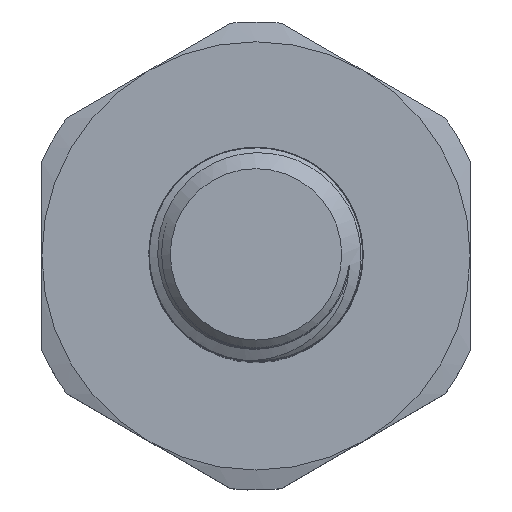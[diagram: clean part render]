
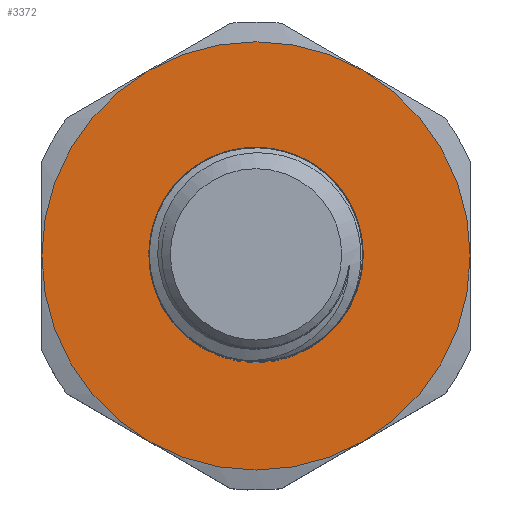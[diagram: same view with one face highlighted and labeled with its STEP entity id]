
A CAD part, top view. The second image highlights one B-rep face of the part: STEP entity #3372.
In plain terms, the highlighted planar face has unit normal (0, 0, 1).
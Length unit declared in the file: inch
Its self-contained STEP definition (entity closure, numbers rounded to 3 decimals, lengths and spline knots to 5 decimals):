
#135=FACE_BOUND('',#609,.T.);
#170=PLANE('',#3723);
#349=FACE_OUTER_BOUND('',#608,.T.);
#608=EDGE_LOOP('',(#2738,#2739,#2740,#2741,#2742,#2743,#2744));
#609=EDGE_LOOP('',(#2745));
#819=CIRCLE('',#3719,0.2495);
#821=CIRCLE('',#3724,0.5);
#822=CIRCLE('',#3725,0.5);
#823=CIRCLE('',#3726,0.5);
#824=CIRCLE('',#3727,0.5);
#825=CIRCLE('',#3728,0.5);
#826=CIRCLE('',#3729,0.5);
#1096=LINE('',#10860,#1208);
#1208=VECTOR('',#4480,0.3937);
#1481=VERTEX_POINT('',#10839);
#1483=VERTEX_POINT('',#10847);
#1484=VERTEX_POINT('',#10848);
#1485=VERTEX_POINT('',#10850);
#1486=VERTEX_POINT('',#10852);
#1487=VERTEX_POINT('',#10854);
#1488=VERTEX_POINT('',#10856);
#1489=VERTEX_POINT('',#10858);
#1916=EDGE_CURVE('',#1481,#1481,#819,.T.);
#1919=EDGE_CURVE('',#1483,#1484,#821,.T.);
#1920=EDGE_CURVE('',#1484,#1485,#822,.T.);
#1921=EDGE_CURVE('',#1485,#1486,#823,.T.);
#1922=EDGE_CURVE('',#1486,#1487,#824,.T.);
#1923=EDGE_CURVE('',#1487,#1488,#825,.T.);
#1924=EDGE_CURVE('',#1488,#1489,#826,.T.);
#1925=EDGE_CURVE('',#1483,#1489,#1096,.T.);
#2738=ORIENTED_EDGE('',*,*,#1919,.T.);
#2739=ORIENTED_EDGE('',*,*,#1920,.T.);
#2740=ORIENTED_EDGE('',*,*,#1921,.T.);
#2741=ORIENTED_EDGE('',*,*,#1922,.T.);
#2742=ORIENTED_EDGE('',*,*,#1923,.T.);
#2743=ORIENTED_EDGE('',*,*,#1924,.T.);
#2744=ORIENTED_EDGE('',*,*,#1925,.F.);
#2745=ORIENTED_EDGE('',*,*,#1916,.T.);
#3372=ADVANCED_FACE('',(#349,#135),#170,.T.);
#3719=AXIS2_PLACEMENT_3D('',#10840,#4457,#4458);
#3723=AXIS2_PLACEMENT_3D('',#10846,#4466,#4467);
#3724=AXIS2_PLACEMENT_3D('',#10849,#4468,#4469);
#3725=AXIS2_PLACEMENT_3D('',#10851,#4470,#4471);
#3726=AXIS2_PLACEMENT_3D('',#10853,#4472,#4473);
#3727=AXIS2_PLACEMENT_3D('',#10855,#4474,#4475);
#3728=AXIS2_PLACEMENT_3D('',#10857,#4476,#4477);
#3729=AXIS2_PLACEMENT_3D('',#10859,#4478,#4479);
#4457=DIRECTION('center_axis',(0.,0.,-1.));
#4458=DIRECTION('ref_axis',(-1.,0.,0.));
#4466=DIRECTION('center_axis',(0.,0.,1.));
#4467=DIRECTION('ref_axis',(1.,0.,0.));
#4468=DIRECTION('center_axis',(0.,0.,1.));
#4469=DIRECTION('ref_axis',(-1.,0.,0.));
#4470=DIRECTION('center_axis',(0.,0.,1.));
#4471=DIRECTION('ref_axis',(-1.,0.,0.));
#4472=DIRECTION('center_axis',(0.,0.,1.));
#4473=DIRECTION('ref_axis',(-1.,0.,0.));
#4474=DIRECTION('center_axis',(0.,0.,1.));
#4475=DIRECTION('ref_axis',(-1.,0.,0.));
#4476=DIRECTION('center_axis',(0.,0.,1.));
#4477=DIRECTION('ref_axis',(-1.,0.,0.));
#4478=DIRECTION('center_axis',(0.,0.,1.));
#4479=DIRECTION('ref_axis',(-1.,0.,0.));
#4480=DIRECTION('',(0.,1.,0.));
#10839=CARTESIAN_POINT('',(0.2495,0.,0.781));
#10840=CARTESIAN_POINT('Origin',(0.,0.,
0.781));
#10846=CARTESIAN_POINT('Origin',(0.,0.,
0.781));
#10847=CARTESIAN_POINT('',(-0.5,-0.00002,0.781));
#10848=CARTESIAN_POINT('',(-0.24998,-0.43302,0.781));
#10849=CARTESIAN_POINT('Origin',(0.,0.,0.781));
#10850=CARTESIAN_POINT('',(0.25002,-0.433,0.781));
#10851=CARTESIAN_POINT('Origin',(0.,0.,0.781));
#10852=CARTESIAN_POINT('',(0.5,0.00002,0.781));
#10853=CARTESIAN_POINT('Origin',(0.,0.,0.781));
#10854=CARTESIAN_POINT('',(0.24998,0.43302,0.781));
#10855=CARTESIAN_POINT('Origin',(0.,0.,0.781));
#10856=CARTESIAN_POINT('',(-0.25002,0.433,0.781));
#10857=CARTESIAN_POINT('Origin',(0.,0.,0.781));
#10858=CARTESIAN_POINT('',(-0.5,0.,0.781));
#10859=CARTESIAN_POINT('Origin',(0.,0.,0.781));
#10860=CARTESIAN_POINT('',(-0.49999,-0.2887,0.781));
